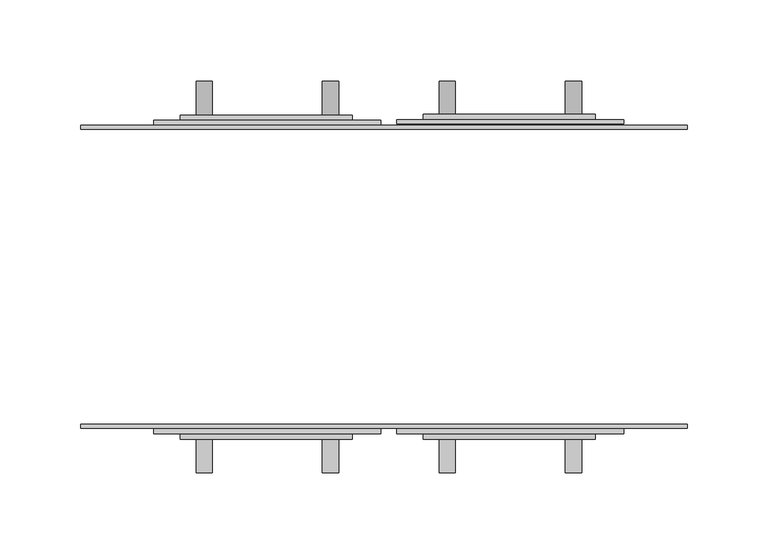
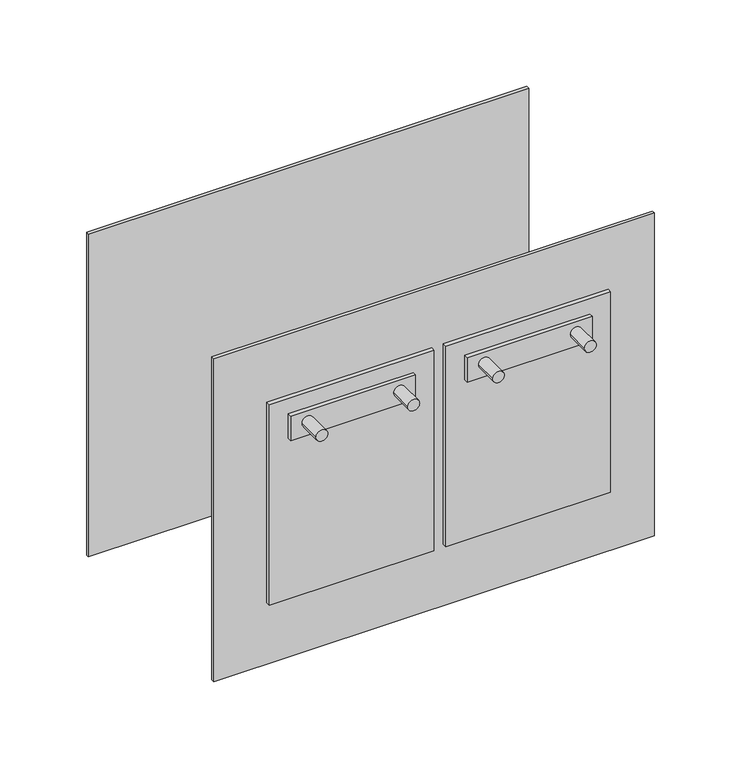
"""IFC4 building model written with IfcOpenShell, lengths in millimetres: proxy geometry, Distribution_Sockets_Two : Distribution_Sockets_Two."""

from ifc_helpers import new_model, si_unit, point, frame, frame_2d, origin, place, context, project, spatial, polyline, circle_curve, trimmed, segment, composite_curve, outline, extrude, source, transform, mapped, element, save


def electrical_equipment_016c1aae(model_context):
    return source(origin(), model_context, "Body", "SweptSolid", [
        extrude(outline(composite_curve([segment(trimmed(circle_curve(frame_2d((65.938994, -268.933241)), 5.0), [point((65.938994, -273.933241))], [point((65.938994, -263.933241))], False, "CARTESIAN"), True, "CONTINUOUS"), segment(trimmed(circle_curve(frame_2d((65.938994, -268.933241)), 5.0), [point((65.938994, -263.933241))], [point((65.938994, -273.933241))], False, "CARTESIAN"), True, "CONTINUOUS")], self_intersect=False)), frame((0.0, 100.0, 0.0), z_axis=(0.0, 1.0, 0.0), x_axis=(0.0, 0.0, 1.0)), (0.0, 0.0, 1.0), 20.9),
        extrude(outline(composite_curve([segment(trimmed(circle_curve(frame_2d((65.938994, -190.9375543)), 5.0), [point((65.938994, -195.9375543))], [point((65.938994, -185.9375543))], False, "CARTESIAN"), True, "CONTINUOUS"), segment(trimmed(circle_curve(frame_2d((65.938994, -190.9375543)), 5.0), [point((65.938994, -185.9375543))], [point((65.938994, -195.9375543))], False, "CARTESIAN"), True, "CONTINUOUS")], self_intersect=False)), frame((0.0, 100.0, 0.0), z_axis=(0.0, 1.0, 0.0), x_axis=(0.0, 0.0, 1.0)), (0.0, 0.0, 1.0), 20.9),
        extrude(outline(composite_curve([segment(trimmed(circle_curve(frame_2d((65.938994, -118.920841)), 5.0), [point((65.938994, -123.920841))], [point((65.938994, -113.920841))], False, "CARTESIAN"), True, "CONTINUOUS"), segment(trimmed(circle_curve(frame_2d((65.938994, -118.920841)), 5.0), [point((65.938994, -113.920841))], [point((65.938994, -123.920841))], False, "CARTESIAN"), True, "CONTINUOUS")], self_intersect=False)), frame((0.0, 100.0, 0.0), z_axis=(0.0, 1.0, 0.0), x_axis=(0.0, 0.0, 1.0)), (0.0, 0.0, 1.0), 20.9),
        extrude(outline(composite_curve([segment(trimmed(circle_curve(frame_2d((65.938994, -40.9251543)), 5.0), [point((65.938994, -45.9251543))], [point((65.938994, -35.9251543))], False, "CARTESIAN"), True, "CONTINUOUS"), segment(trimmed(circle_curve(frame_2d((65.938994, -40.9251543)), 5.0), [point((65.938994, -35.9251543))], [point((65.938994, -45.9251543))], False, "CARTESIAN"), True, "CONTINUOUS")], self_intersect=False)), frame((0.0, 100.0, 0.0), z_axis=(0.0, 1.0, 0.0), x_axis=(0.0, 0.0, 1.0)), (0.0, 0.0, 1.0), 20.9),
        extrude(outline(composite_curve([segment(trimmed(circle_curve(frame_2d((65.938994, -268.933241)), 5.0), [point((65.938994, -273.933241))], [point((65.938994, -263.933241))], False, "CARTESIAN"), True, "CONTINUOUS"), segment(trimmed(circle_curve(frame_2d((65.938994, -268.933241)), 5.0), [point((65.938994, -263.933241))], [point((65.938994, -273.933241))], False, "CARTESIAN"), True, "CONTINUOUS")], self_intersect=False)), frame((0.0, -120.9, 0.0), z_axis=(0.0, 1.0, 0.0), x_axis=(0.0, 0.0, 1.0)), (0.0, 0.0, 1.0), 20.9),
        extrude(outline(composite_curve([segment(trimmed(circle_curve(frame_2d((65.938994, -190.9375543)), 5.0), [point((65.938994, -195.9375543))], [point((65.938994, -185.9375543))], False, "CARTESIAN"), True, "CONTINUOUS"), segment(trimmed(circle_curve(frame_2d((65.938994, -190.9375543)), 5.0), [point((65.938994, -185.9375543))], [point((65.938994, -195.9375543))], False, "CARTESIAN"), True, "CONTINUOUS")], self_intersect=False)), frame((0.0, -120.9, 0.0), z_axis=(0.0, 1.0, 0.0), x_axis=(0.0, 0.0, 1.0)), (0.0, 0.0, 1.0), 20.9),
        extrude(outline(composite_curve([segment(trimmed(circle_curve(frame_2d((65.938994, -118.920841)), 5.0), [point((65.938994, -123.920841))], [point((65.938994, -113.920841))], False, "CARTESIAN"), True, "CONTINUOUS"), segment(trimmed(circle_curve(frame_2d((65.938994, -118.920841)), 5.0), [point((65.938994, -113.920841))], [point((65.938994, -123.920841))], False, "CARTESIAN"), True, "CONTINUOUS")], self_intersect=False)), frame((0.0, -120.9, 0.0), z_axis=(0.0, 1.0, 0.0), x_axis=(0.0, 0.0, 1.0)), (0.0, 0.0, 1.0), 20.9),
        extrude(outline(composite_curve([segment(trimmed(circle_curve(frame_2d((65.938994, -40.9251543)), 5.0), [point((65.938994, -45.9251543))], [point((65.938994, -35.9251543))], False, "CARTESIAN"), True, "CONTINUOUS"), segment(trimmed(circle_curve(frame_2d((65.938994, -40.9251543)), 5.0), [point((65.938994, -35.9251543))], [point((65.938994, -45.9251543))], False, "CARTESIAN"), True, "CONTINUOUS")], self_intersect=False)), frame((0.0, -120.9, 0.0), z_axis=(0.0, 1.0, 0.0), x_axis=(0.0, 0.0, 1.0)), (0.0, 0.0, 1.0), 20.9),
        extrude(outline(polyline([(-177.6321808, 99.6294997), (-177.6321808, 96.6294997), (-283.6322514, 96.6294997), (-283.6322514, 99.6294997), (-177.6321808, 99.6294997)])), frame((0.0, 0.0, 54.0), z_axis=(0.0, 0.0, 1.0), x_axis=(1.0, 0.0, 0.0)), (0.0, 0.0, 1.0), 22.0),
        extrude(outline(polyline([(-27.6196804, 100.3705036), (-27.6196804, 97.0000036), (-133.619751, 97.0000036), (-133.619751, 100.3705036), (-27.6196804, 100.3705036)])), frame((0.0, 0.0, 54.0), z_axis=(0.0, 0.0, 1.0), x_axis=(1.0, 0.0, 0.0)), (0.0, 0.0, 1.0), 22.0),
        extrude(outline(polyline([(-177.6321808, -100.3704993), (-283.6322514, -100.3704993), (-283.6322514, -96.9999993), (-177.6321808, -96.9999993), (-177.6321808, -100.3704993)])), frame((0.0, 0.0, 54.0), z_axis=(0.0, 0.0, 1.0), x_axis=(1.0, 0.0, 0.0)), (0.0, 0.0, 1.0), 22.0),
        extrude(outline(polyline([(-27.6196804, -100.3705036), (-133.619751, -100.3705036), (-133.619751, -97.0000036), (-27.6196804, -97.0000036), (-27.6196804, -100.3705036)])), frame((0.0, 0.0, 54.0), z_axis=(0.0, 0.0, 1.0), x_axis=(1.0, 0.0, 0.0)), (0.0, 0.0, 1.0), 22.0),
        extrude(outline(polyline([(-300.0123562, 96.6294997), (-160.012326, 96.6294997), (-160.012326, 93.6294997), (-300.0123562, 93.6294997), (-300.0123562, 96.6294997)])), frame((0.0, 0.0, -90.0), z_axis=(0.0, 0.0, 1.0), x_axis=(1.0, 0.0, 0.0)), (0.0, 0.0, 1.0), 180.0),
        extrude(outline(polyline([(-300.0123562, -97.0000022), (-300.0123562, -93.6295025), (-160.012326, -93.6295025), (-160.012326, -97.0000022), (-300.0123562, -97.0000022)])), frame((0.0, 0.0, -90.0), z_axis=(0.0, 0.0, 1.0), x_axis=(1.0, 0.0, 0.0)), (0.0, 0.0, 1.0), 180.0),
        extrude(outline(polyline([(-150.0000011, 96.9999971), (-9.999971, 96.9999971), (-9.999971, 94.3705), (-150.0000011, 94.3705), (-150.0000011, 96.9999971)])), frame((0.0, 0.0, -90.0), z_axis=(0.0, 0.0, 1.0), x_axis=(1.0, 0.0, 0.0)), (0.0, 0.0, 1.0), 180.0),
        extrude(outline(polyline([(-150.0000011, -97.0000022), (-150.0000011, -93.6295025), (-9.999971, -93.6295025), (-9.999971, -97.0000022), (-150.0000011, -97.0000022)])), frame((0.0, 0.0, -90.0), z_axis=(0.0, 0.0, 1.0), x_axis=(1.0, 0.0, 0.0)), (0.0, 0.0, 1.0), 180.0),
        extrude(outline(polyline([(29.1249099, 93.6294997), (29.1249099, 91.0), (-345.0048134, 91.0), (-345.0048134, 93.6294997), (29.1249099, 93.6294997)])), frame((0.0, 0.0, -145.0), z_axis=(0.0, 0.0, 1.0), x_axis=(1.0, 0.0, 0.0)), (0.0, 0.0, 1.0), 290.0),
        extrude(outline(polyline([(-345.0048134, -93.6295025), (-345.0048134, -91.0), (29.1249099, -91.0), (29.1249099, -93.6295025), (-345.0048134, -93.6295025)])), frame((0.0, 0.0, -145.0), z_axis=(0.0, 0.0, 1.0), x_axis=(1.0, 0.0, 0.0)), (0.0, 0.0, 1.0), 290.0),
    ])


if __name__ == "__main__":
    model = new_model("IFC4")
    model_context = context("Model", 3, world=origin())
    ifc_project = project(units=[si_unit("LENGTHUNIT", "METRE", prefix="MILLI")], contexts=[model_context])
    site = spatial("IfcSite", under=ifc_project)
    building = spatial("IfcBuilding", under=site)
    placement = place(None, origin())
    electrical_equipment_shape = electrical_equipment_016c1aae(model_context)
    element("IfcBuildingElementProxy", 1, Name="Distribution_Sockets_Two : Distribution_Sockets_Two", ObjectType="Distribution_Sockets_Two : Distribution_Sockets_Two", at=placement, inside=building, context=model_context, shape_type="MappedRepresentation", body=[
        mapped(electrical_equipment_shape, transform((0.0, 0.0, 0.0), x_axis=(1.0, 0.0, 0.0), y_axis=(0.0, 1.0, 0.0), z_axis=(0.0, 0.0, 1.0))),
    ])
    save(model, "model.ifc")
